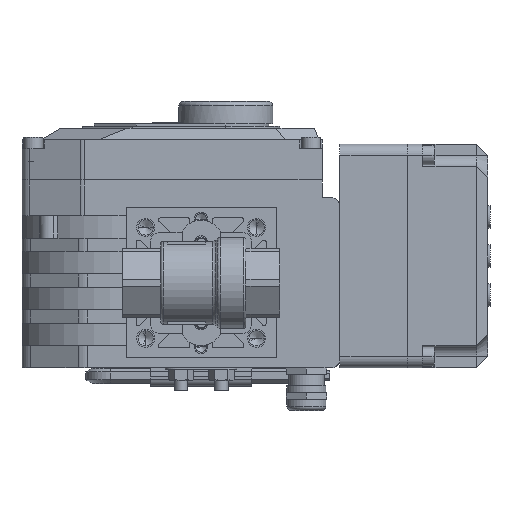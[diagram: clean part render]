
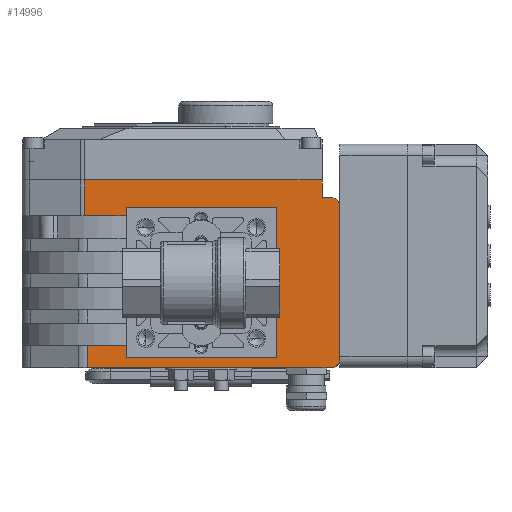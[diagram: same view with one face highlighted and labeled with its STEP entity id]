
A CAD part, front view. The second image highlights one B-rep face of the part: STEP entity #14996.
In plain terms, the highlighted planar face has unit normal (0, -1, 0).
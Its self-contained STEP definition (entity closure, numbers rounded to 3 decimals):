
#9969=DIRECTION('',(1.,0.,0.));
#9970=VECTOR('',#9969,108.749);
#9971=CARTESIAN_POINT('',(-47.,-36.5,0.));
#9972=LINE('',#9971,#9970);
#10396=DIRECTION('',(-1.,0.,0.));
#10397=VECTOR('',#10396,18.604);
#10398=CARTESIAN_POINT('',(63.104,-36.5,-68.));
#10399=LINE('',#10398,#10397);
#10656=DIRECTION('',(0.,0.,1.));
#10657=VECTOR('',#10656,16.);
#10658=CARTESIAN_POINT('',(63.104,-36.5,-84.));
#10659=LINE('',#10658,#10657);
#10660=DIRECTION('',(-1.,0.,0.));
#10661=VECTOR('',#10660,106.104);
#10662=CARTESIAN_POINT('',(63.104,-36.5,-84.));
#10663=LINE('',#10662,#10661);
#10664=CARTESIAN_POINT('',(-47.,-36.5,-72.));
#10665=DIRECTION('',(0.,-1.,0.));
#10666=DIRECTION('',(-1.,0.,0.));
#10667=AXIS2_PLACEMENT_3D('',#10664,#10665,#10666);
#10669=DIRECTION('',(0.,0.,-1.));
#10670=VECTOR('',#10669,68.);
#10671=CARTESIAN_POINT('',(-51.,-36.5,-4.));
#10672=LINE('',#10671,#10670);
#10673=CARTESIAN_POINT('',(-47.,-36.5,-4.));
#10674=DIRECTION('',(0.,-1.,0.));
#10675=DIRECTION('',(0.,0.,1.));
#10676=AXIS2_PLACEMENT_3D('',#10673,#10674,#10675);
#10678=DIRECTION('',(0.,0.,1.));
#10679=VECTOR('',#10678,10.);
#10680=CARTESIAN_POINT('',(61.749,-36.5,-10.));
#10681=LINE('',#10680,#10679);
#10682=DIRECTION('',(-1.,0.,0.));
#10683=VECTOR('',#10682,17.249);
#10684=CARTESIAN_POINT('',(61.749,-36.5,-10.));
#10685=LINE('',#10684,#10683);
#10686=DIRECTION('',(0.,0.,1.));
#10687=VECTOR('',#10686,5.5);
#10688=CARTESIAN_POINT('',(44.5,-36.5,-10.));
#10689=LINE('',#10688,#10687);
#10690=DIRECTION('',(-1.,0.,0.));
#10691=VECTOR('',#10690,67.);
#10692=CARTESIAN_POINT('',(44.5,-36.5,-4.5));
#10693=LINE('',#10692,#10691);
#10694=DIRECTION('',(0.,0.,-1.));
#10695=VECTOR('',#10694,67.);
#10696=CARTESIAN_POINT('',(-22.5,-36.5,-4.5));
#10697=LINE('',#10696,#10695);
#10698=DIRECTION('',(1.,0.,0.));
#10699=VECTOR('',#10698,67.);
#10700=CARTESIAN_POINT('',(-22.5,-36.5,-71.5));
#10701=LINE('',#10700,#10699);
#10702=DIRECTION('',(0.,0.,1.));
#10703=VECTOR('',#10702,3.5);
#10704=CARTESIAN_POINT('',(44.5,-36.5,-71.5));
#10705=LINE('',#10704,#10703);
#10995=DIRECTION('',(1.,0.,0.));
#10996=VECTOR('',#10995,4.);
#10997=CARTESIAN_POINT('',(-47.,-36.5,-76.));
#10998=LINE('',#10997,#10996);
#11031=DIRECTION('',(0.,0.,-1.));
#11032=VECTOR('',#11031,8.);
#11033=CARTESIAN_POINT('',(-43.,-36.5,-76.));
#11034=LINE('',#11033,#11032);
#13203=CARTESIAN_POINT('',(-43.,-36.5,-84.));
#13205=VERTEX_POINT('',#13203);
#13207=CARTESIAN_POINT('',(-43.,-36.5,-76.));
#13209=VERTEX_POINT('',#13207);
#13211=CARTESIAN_POINT('',(-47.,-36.5,0.));
#13212=CARTESIAN_POINT('',(-51.,-36.5,-4.));
#13213=VERTEX_POINT('',#13211);
#13214=VERTEX_POINT('',#13212);
#13223=CARTESIAN_POINT('',(-51.,-36.5,-72.));
#13224=CARTESIAN_POINT('',(-47.,-36.5,-76.));
#13225=VERTEX_POINT('',#13223);
#13226=VERTEX_POINT('',#13224);
#13255=CARTESIAN_POINT('',(61.749,-36.5,0.));
#13257=VERTEX_POINT('',#13255);
#13399=CARTESIAN_POINT('',(61.749,-36.5,-10.));
#13400=VERTEX_POINT('',#13399);
#13495=CARTESIAN_POINT('',(-22.5,-36.5,-4.5));
#13496=CARTESIAN_POINT('',(-22.5,-36.5,-71.5));
#13497=VERTEX_POINT('',#13495);
#13498=VERTEX_POINT('',#13496);
#13499=CARTESIAN_POINT('',(44.5,-36.5,-71.5));
#13500=VERTEX_POINT('',#13499);
#13501=CARTESIAN_POINT('',(44.5,-36.5,-68.));
#13502=VERTEX_POINT('',#13501);
#13515=CARTESIAN_POINT('',(44.5,-36.5,-10.));
#13516=CARTESIAN_POINT('',(44.5,-36.5,-4.5));
#13517=VERTEX_POINT('',#13515);
#13518=VERTEX_POINT('',#13516);
#14191=CARTESIAN_POINT('',(63.104,-36.5,-68.));
#14193=VERTEX_POINT('',#14191);
#14197=CARTESIAN_POINT('',(63.104,-36.5,-84.));
#14198=VERTEX_POINT('',#14197);
#14961=CARTESIAN_POINT('',(-51.,-36.5,0.));
#14962=DIRECTION('',(0.,-1.,0.));
#14963=DIRECTION('',(1.,0.,0.));
#14964=AXIS2_PLACEMENT_3D('',#14961,#14962,#14963);
#14965=PLANE('',#14964);
#14967=ORIENTED_EDGE('',*,*,#14966,.F.);
#14969=ORIENTED_EDGE('',*,*,#14968,.T.);
#14971=ORIENTED_EDGE('',*,*,#14970,.F.);
#14973=ORIENTED_EDGE('',*,*,#14972,.F.);
#14975=ORIENTED_EDGE('',*,*,#14974,.F.);
#14977=ORIENTED_EDGE('',*,*,#14976,.F.);
#14978=ORIENTED_EDGE('',*,*,#14906,.F.);
#14979=ORIENTED_EDGE('',*,*,#14218,.T.);
#14981=ORIENTED_EDGE('',*,*,#14980,.F.);
#14982=ORIENTED_EDGE('',*,*,#14360,.T.);
#14984=ORIENTED_EDGE('',*,*,#14983,.T.);
#14986=ORIENTED_EDGE('',*,*,#14985,.T.);
#14988=ORIENTED_EDGE('',*,*,#14987,.T.);
#14990=ORIENTED_EDGE('',*,*,#14989,.T.);
#14992=ORIENTED_EDGE('',*,*,#14991,.T.);
#14993=ORIENTED_EDGE('',*,*,#14622,.F.);
#14994=EDGE_LOOP('',(#14967,#14969,#14971,#14973,#14975,#14977,#14978,#14979,
#14981,#14982,#14984,#14986,#14988,#14990,#14992,#14993));
#14995=FACE_OUTER_BOUND('',#14994,.F.);
#14996=ADVANCED_FACE('',(#14995),#14965,.T.);
#10668=CIRCLE('',#10667,4.);
#10677=CIRCLE('',#10676,4.);
#14218=EDGE_CURVE('',#13213,#13257,#9972,.T.);
#14360=EDGE_CURVE('',#13400,#13517,#10685,.T.);
#14622=EDGE_CURVE('',#14193,#13502,#10399,.T.);
#14906=EDGE_CURVE('',#13213,#13214,#10677,.T.);
#14966=EDGE_CURVE('',#14198,#14193,#10659,.T.);
#14968=EDGE_CURVE('',#14198,#13205,#10663,.T.);
#14970=EDGE_CURVE('',#13209,#13205,#11034,.T.);
#14972=EDGE_CURVE('',#13226,#13209,#10998,.T.);
#14974=EDGE_CURVE('',#13225,#13226,#10668,.T.);
#14976=EDGE_CURVE('',#13214,#13225,#10672,.T.);
#14980=EDGE_CURVE('',#13400,#13257,#10681,.T.);
#14983=EDGE_CURVE('',#13517,#13518,#10689,.T.);
#14985=EDGE_CURVE('',#13518,#13497,#10693,.T.);
#14987=EDGE_CURVE('',#13497,#13498,#10697,.T.);
#14989=EDGE_CURVE('',#13498,#13500,#10701,.T.);
#14991=EDGE_CURVE('',#13500,#13502,#10705,.T.);
